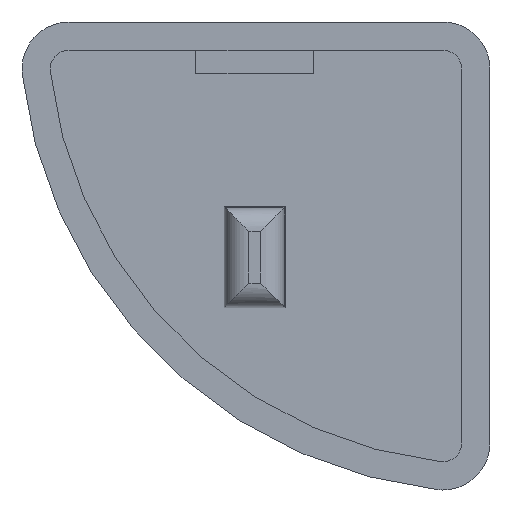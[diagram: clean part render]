
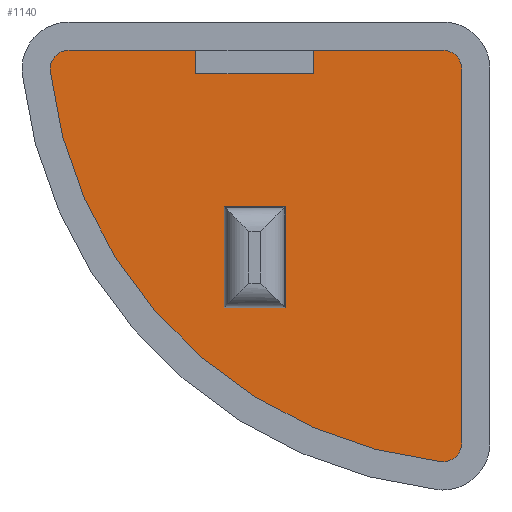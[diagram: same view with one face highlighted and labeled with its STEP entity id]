
A CAD part, front view. The second image highlights one B-rep face of the part: STEP entity #1140.
In plain terms, the highlighted planar face has unit normal (0, -1, 0).
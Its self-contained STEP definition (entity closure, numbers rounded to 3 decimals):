
#2 = CARTESIAN_POINT ( 'NONE',  ( -17.889, 1., -1.2 ) ) ;
#4 = VERTEX_POINT ( 'NONE', #410 ) ;
#5 = DIRECTION ( 'NONE',  ( 0., -1., 0. ) ) ;
#6 = DIRECTION ( 'NONE',  ( -1., 0., 0. ) ) ;
#7 = VECTOR ( 'NONE', #33, 1000. ) ;
#11 = LINE ( 'NONE', #575, #218 ) ;
#24 = ORIENTED_EDGE ( 'NONE', *, *, #611, .F. ) ;
#33 = DIRECTION ( 'NONE',  ( -1., 0., 0. ) ) ;
#36 = EDGE_CURVE ( 'NONE', #213, #85, #496, .T. ) ;
#40 = CARTESIAN_POINT ( 'NONE',  ( -1.2, 1., -2. ) ) ;
#42 = ORIENTED_EDGE ( 'NONE', *, *, #840, .T. ) ;
#43 = DIRECTION ( 'NONE',  ( 0., 0., 1. ) ) ;
#76 = AXIS2_PLACEMENT_3D ( 'NONE', #126, #753, #211 ) ;
#82 = DIRECTION ( 'NONE',  ( 0., -1., 0. ) ) ;
#85 = VERTEX_POINT ( 'NONE', #423 ) ;
#102 = DIRECTION ( 'NONE',  ( 0., 0., 1. ) ) ;
#108 = ORIENTED_EDGE ( 'NONE', *, *, #36, .T. ) ;
#119 = DIRECTION ( 'NONE',  ( 0., 0., -1. ) ) ;
#124 = CARTESIAN_POINT ( 'NONE',  ( -12.5, 1., -2.2 ) ) ;
#126 = CARTESIAN_POINT ( 'NONE',  ( -17.889, 1., -2. ) ) ;
#139 = VERTEX_POINT ( 'NONE', #849 ) ;
#141 = CARTESIAN_POINT ( 'NONE',  ( -12.5, 1., -1.2 ) ) ;
#143 = CARTESIAN_POINT ( 'NONE',  ( -12.5, 1., -2.2 ) ) ;
#166 = CARTESIAN_POINT ( 'NONE',  ( -2., 1., -2. ) ) ;
#170 = CARTESIAN_POINT ( 'NONE',  ( -12.5, 1., -1.2 ) ) ;
#172 = EDGE_CURVE ( 'NONE', #4, #213, #830, .T. ) ;
#192 = ORIENTED_EDGE ( 'NONE', *, *, #459, .F. ) ;
#193 = FACE_OUTER_BOUND ( 'NONE', #708, .T. ) ;
#198 = VERTEX_POINT ( 'NONE', #124 ) ;
#202 = VERTEX_POINT ( 'NONE', #207 ) ;
#207 = CARTESIAN_POINT ( 'NONE',  ( -8.7, 1., -12.15 ) ) ;
#209 = AXIS2_PLACEMENT_3D ( 'NONE', #986, #5, #633 ) ;
#211 = DIRECTION ( 'NONE',  ( 0., 0., -1. ) ) ;
#212 = VECTOR ( 'NONE', #1108, 1000. ) ;
#213 = VERTEX_POINT ( 'NONE', #920 ) ;
#218 = VECTOR ( 'NONE', #43, 1000. ) ;
#220 = EDGE_CURVE ( 'NONE', #469, #4, #1008, .T. ) ;
#222 = DIRECTION ( 'NONE',  ( 0., 0., -1. ) ) ;
#223 = VERTEX_POINT ( 'NONE', #301 ) ;
#235 = ORIENTED_EDGE ( 'NONE', *, *, #901, .T. ) ;
#248 = LINE ( 'NONE', #574, #7 ) ;
#254 = DIRECTION ( 'NONE',  ( 0., 0., -1. ) ) ;
#261 = VECTOR ( 'NONE', #940, 1000. ) ;
#282 = EDGE_CURVE ( 'NONE', #1051, #469, #248, .T. ) ;
#288 = VECTOR ( 'NONE', #1027, 1000. ) ;
#291 = VECTOR ( 'NONE', #6, 1000. ) ;
#301 = CARTESIAN_POINT ( 'NONE',  ( -2., 1., -1.2 ) ) ;
#303 = EDGE_CURVE ( 'NONE', #202, #651, #922, .T. ) ;
#304 = CARTESIAN_POINT ( 'NONE',  ( -11.3, 1., -12.15 ) ) ;
#307 = ORIENTED_EDGE ( 'NONE', *, *, #282, .T. ) ;
#309 = CARTESIAN_POINT ( 'NONE',  ( -8.7, 1., -7.85 ) ) ;
#312 = LINE ( 'NONE', #141, #999 ) ;
#330 = VERTEX_POINT ( 'NONE', #667 ) ;
#338 = AXIS2_PLACEMENT_3D ( 'NONE', #1045, #510, #1135 ) ;
#346 = LINE ( 'NONE', #1106, #369 ) ;
#369 = VECTOR ( 'NONE', #579, 1000. ) ;
#375 = CARTESIAN_POINT ( 'NONE',  ( -2., 1., -17.889 ) ) ;
#410 = CARTESIAN_POINT ( 'NONE',  ( -18.684, 1., -2.089 ) ) ;
#421 = EDGE_CURVE ( 'NONE', #651, #139, #346, .T. ) ;
#423 = CARTESIAN_POINT ( 'NONE',  ( -2., 1., -18.689 ) ) ;
#427 = VECTOR ( 'NONE', #102, 1000. ) ;
#441 = VERTEX_POINT ( 'NONE', #40 ) ;
#442 = CIRCLE ( 'NONE', #1162, 0.8 ) ;
#453 = LINE ( 'NONE', #724, #427 ) ;
#459 = EDGE_CURVE ( 'NONE', #1051, #198, #312, .T. ) ;
#461 = DIRECTION ( 'NONE',  ( 0., 0., -1. ) ) ;
#469 = VERTEX_POINT ( 'NONE', #763 ) ;
#479 = EDGE_CURVE ( 'NONE', #139, #605, #798, .T. ) ;
#487 = CARTESIAN_POINT ( 'NONE',  ( -8.7, 1., -7.85 ) ) ;
#496 = CIRCLE ( 'NONE', #338, 0.8 ) ;
#510 = DIRECTION ( 'NONE',  ( 0., -1., 0. ) ) ;
#526 = EDGE_CURVE ( 'NONE', #198, #330, #939, .T. ) ;
#543 = ORIENTED_EDGE ( 'NONE', *, *, #172, .T. ) ;
#545 = PLANE ( 'NONE',  #209 ) ;
#551 = ORIENTED_EDGE ( 'NONE', *, *, #1017, .T. ) ;
#567 = VECTOR ( 'NONE', #921, 1000. ) ;
#574 = CARTESIAN_POINT ( 'NONE',  ( -17.889, 1., -1.2 ) ) ;
#575 = CARTESIAN_POINT ( 'NONE',  ( -7.5, 1., -1.2 ) ) ;
#579 = DIRECTION ( 'NONE',  ( -1., 0., 0. ) ) ;
#593 = CARTESIAN_POINT ( 'NONE',  ( 0., 1., 0. ) ) ;
#605 = VERTEX_POINT ( 'NONE', #1053 ) ;
#611 = EDGE_CURVE ( 'NONE', #605, #202, #829, .T. ) ;
#633 = DIRECTION ( 'NONE',  ( 0., 0., -1. ) ) ;
#651 = VERTEX_POINT ( 'NONE', #309 ) ;
#658 = EDGE_CURVE ( 'NONE', #330, #1034, #11, .T. ) ;
#664 = ORIENTED_EDGE ( 'NONE', *, *, #421, .F. ) ;
#667 = CARTESIAN_POINT ( 'NONE',  ( -7.5, 1., -2.2 ) ) ;
#708 = EDGE_LOOP ( 'NONE', ( #905, #192, #307, #815, #543, #108, #235, #1129, #551, #42, #768 ) ) ;
#717 = AXIS2_PLACEMENT_3D ( 'NONE', #166, #791, #254 ) ;
#724 = CARTESIAN_POINT ( 'NONE',  ( -1.2, 1., -2. ) ) ;
#742 = LINE ( 'NONE', #2, #291 ) ;
#753 = DIRECTION ( 'NONE',  ( 0., -1., 0. ) ) ;
#763 = CARTESIAN_POINT ( 'NONE',  ( -17.889, 1., -1.2 ) ) ;
#768 = ORIENTED_EDGE ( 'NONE', *, *, #658, .F. ) ;
#789 = CARTESIAN_POINT ( 'NONE',  ( -7.5, 1., -1.2 ) ) ;
#791 = DIRECTION ( 'NONE',  ( 0., -1., 0. ) ) ;
#798 = LINE ( 'NONE', #1115, #288 ) ;
#815 = ORIENTED_EDGE ( 'NONE', *, *, #220, .T. ) ;
#829 = LINE ( 'NONE', #304, #567 ) ;
#830 = CIRCLE ( 'NONE', #1111, 18.8 ) ;
#840 = EDGE_CURVE ( 'NONE', #223, #1034, #742, .T. ) ;
#849 = CARTESIAN_POINT ( 'NONE',  ( -11.3, 1., -7.85 ) ) ;
#878 = ORIENTED_EDGE ( 'NONE', *, *, #303, .F. ) ;
#883 = CARTESIAN_POINT ( 'NONE',  ( -1.2, 1., -17.889 ) ) ;
#901 = EDGE_CURVE ( 'NONE', #85, #1107, #442, .T. ) ;
#903 = FACE_BOUND ( 'NONE', #964, .T. ) ;
#905 = ORIENTED_EDGE ( 'NONE', *, *, #526, .F. ) ;
#920 = CARTESIAN_POINT ( 'NONE',  ( -2.089, 1., -18.684 ) ) ;
#921 = DIRECTION ( 'NONE',  ( 1., 0., 0. ) ) ;
#922 = LINE ( 'NONE', #487, #212 ) ;
#939 = LINE ( 'NONE', #143, #261 ) ;
#940 = DIRECTION ( 'NONE',  ( 1., 0., 0. ) ) ;
#964 = EDGE_LOOP ( 'NONE', ( #24, #1057, #664, #878 ) ) ;
#986 = CARTESIAN_POINT ( 'NONE',  ( 0., 1., 0. ) ) ;
#998 = DIRECTION ( 'NONE',  ( 0., -1., 0. ) ) ;
#999 = VECTOR ( 'NONE', #222, 1000. ) ;
#1008 = CIRCLE ( 'NONE', #76, 0.8 ) ;
#1010 = CIRCLE ( 'NONE', #717, 0.8 ) ;
#1017 = EDGE_CURVE ( 'NONE', #441, #223, #1010, .T. ) ;
#1027 = DIRECTION ( 'NONE',  ( 0., 0., -1. ) ) ;
#1034 = VERTEX_POINT ( 'NONE', #789 ) ;
#1045 = CARTESIAN_POINT ( 'NONE',  ( -2., 1., -17.889 ) ) ;
#1051 = VERTEX_POINT ( 'NONE', #170 ) ;
#1053 = CARTESIAN_POINT ( 'NONE',  ( -11.3, 1., -12.15 ) ) ;
#1057 = ORIENTED_EDGE ( 'NONE', *, *, #479, .F. ) ;
#1106 = CARTESIAN_POINT ( 'NONE',  ( -11.3, 1., -7.85 ) ) ;
#1107 = VERTEX_POINT ( 'NONE', #883 ) ;
#1108 = DIRECTION ( 'NONE',  ( 0., 0., 1. ) ) ;
#1111 = AXIS2_PLACEMENT_3D ( 'NONE', #593, #82, #119 ) ;
#1115 = CARTESIAN_POINT ( 'NONE',  ( -11.3, 1., -7.85 ) ) ;
#1129 = ORIENTED_EDGE ( 'NONE', *, *, #1149, .T. ) ;
#1135 = DIRECTION ( 'NONE',  ( 0., 0., -1. ) ) ;
#1140 = ADVANCED_FACE ( 'NONE', ( #193, #903 ), #545, .T. ) ;
#1149 = EDGE_CURVE ( 'NONE', #1107, #441, #453, .T. ) ;
#1162 = AXIS2_PLACEMENT_3D ( 'NONE', #375, #998, #461 ) ;
